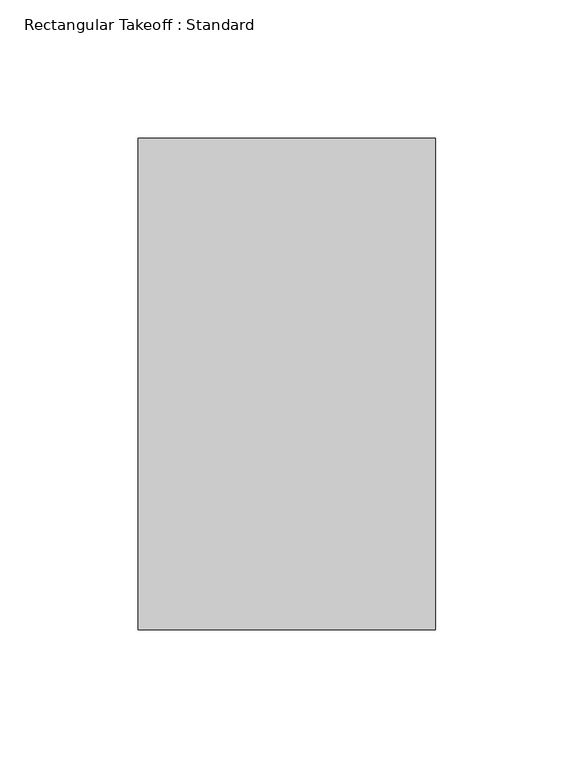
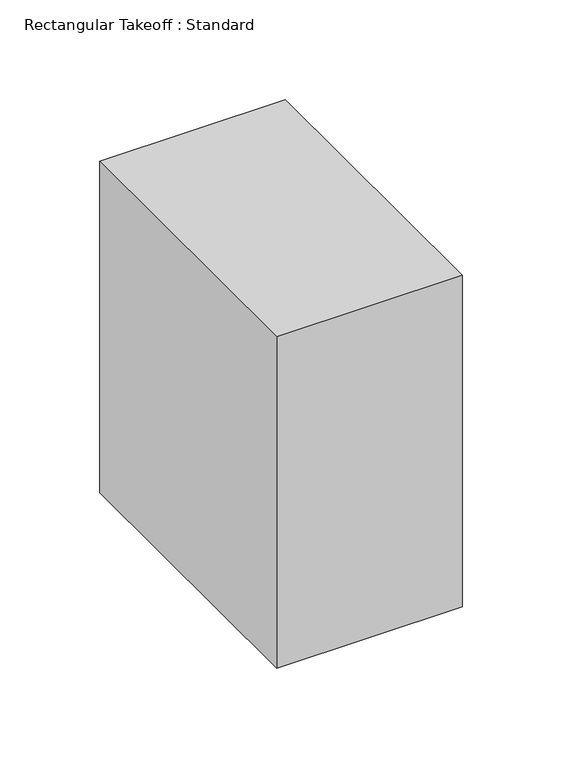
"""IFC4 building model written with IfcOpenShell, lengths in millimetres: duct fitting geometry, Rectangular Takeoff : Standard."""

from ifc_helpers import new_model, si_unit, frame, origin, place, context, project, spatial, polyline, outline, extrude, source, transform, mapped, element, save


def rectangular_takeoff_standard_32a156ed(model_context):
    return source(origin(), model_context, "Body", "SweptSolid", [
        extrude(outline(polyline([(-6.096, -88.9), (-6.096, 88.9), (101.6, 88.9), (101.6, -88.9), (-6.096, -88.9)])), frame((0.0, 0.0, -101.6), z_axis=(0.0, 0.0, 1.0), x_axis=(1.0, 0.0, 0.0)), (0.0, 0.0, 1.0), 203.2),
    ])


if __name__ == "__main__":
    model = new_model("IFC4")
    model_context = context("Model", 3, world=origin())
    ifc_project = project(units=[si_unit("LENGTHUNIT", "METRE", prefix="MILLI")], contexts=[model_context])
    site = spatial("IfcSite", under=ifc_project)
    building = spatial("IfcBuilding", under=site)
    placement = place(None, origin())
    rectangular_takeoff_standard_shape = rectangular_takeoff_standard_32a156ed(model_context)
    element("IfcDuctFitting", 1, ObjectType="Rectangular Takeoff : Standard", at=placement, inside=building, context=model_context, shape_type="MappedRepresentation", body=[
        mapped(rectangular_takeoff_standard_shape, transform((0.0, 0.0, 0.0), x_axis=(1.0, 0.0, 0.0), y_axis=(0.0, 1.0, 0.0), z_axis=(0.0, 0.0, 1.0))),
    ])
    save(model, "model.ifc")
